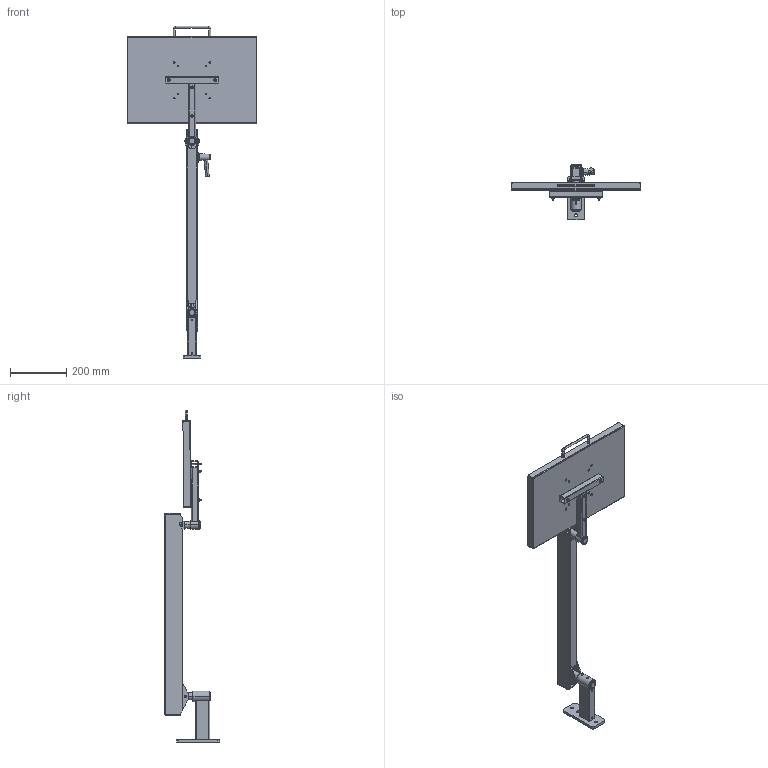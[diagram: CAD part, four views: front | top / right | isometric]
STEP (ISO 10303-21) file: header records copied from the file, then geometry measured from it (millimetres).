
FILE_DESCRIPTION (( 'STEP AP203' ), '1' );
FILE_NAME ('70-0735-00 REV AA, 24in FLEX SYSTEM, TOOL TRAY, WALL MOUNT W EXT - EXTENDED FLAT.STEP', '2025-09-17T22:14:59', ( '' ), ( '' ), 'SwSTEP 2.0', 'SolidWorks 2025', '' );
FILE_SCHEMA (( 'CONFIG_CONTROL_DESIGN' ));
Length unit declared in the file: inch
Products named in the file (56): 11-0601-99 REV AA, CONICAL KNOB, BRAKE ASSEMBLY; 71-0070-RX REV AA, AXLE PIN, SHORT; 002-041-00_002-041-00; 010-011-00, RETAINING RING, EXT, .250 SHAFT_010-011-00; 71-2400-RX REV AA, HOUSING, 24in FLEX; 70-2435-00 REV AA,  FLEX SECTION, 24in, 16-35 LB; 70-0095-00 REV AA, STUD MOUNT, 6in EXT; 010-012-00, RETAINING RING, EXTERNAL, .875in SHAFT; 71-0038-RX REV AA, PIVOT, KNUCKLE, ELECTROLESS NICKEL; 006-059-00; 013-043-00, SPRING, GOLD, 1x8_ISO425203; 007-031-00_007-031-00; 70-0050-00 REV AA, T BAR; 71-3032-RX REV AA, SPRING ROD, 24in FLEX; 71-0060-00; 016-008-00, OILITE PLUS BEARING, 0.876 id x 1.002 od x 1.25 lg; 006-004-00_006-004-00; 11-0650-00 REV AA, BRAKE HANDLE ASSEMBLY; 71-0013-RX REV AA, HOUSING, BEARING, SHORT_MACHINE; 71-0030-RX REV AA, KNUCKLE, LOAD_MACHINE; 71-0217-RX REV AA, PLATE, NARROW WALL MOUNT_Laser; 002-091-00, FHSCS, 10-32x1.5, BO_002-091-00; 71-0071-RX REV AA, AXLE PIN, LONG; 71-0057-WDX REV AA, GUIDE WELDMENT, 24in DOUBLE SPRING GUIDE; 11-0602-RX REV AA, HANDLE, BRAKE ASSEMBLY; 71-0031-RX REV AA, KNUCKLE, MOUNT_MACHINE; 006-008-00, NUT, HEX, 10-32 x .125_006-008-00; 71-0028-RX REV AA, TAB, MOUNT_MACHINE; 71-0029-RX REV AA, TAB, LOAD; 70-0401-00 REV AA, 18x12 SUPPORT TRAY ASSEMBLY; 004-144-00; 71-0037-RX REV AA, PIVOT, THREADED; 71-0052-RX REV AA, HOUSING, T AND STRAIGHT BAR CROSS SECTION_MACHINE; 71-2113-RX REV AA, HOUSING, BEARING, TALL, 1.5OD_MACHINE; 025-067-00, HANDLE, U SHAPED, 8-32; 71-0040-RX REV AA, BRAKE BLOCK, WIDE_MACHINE; 71-0972-99 REV 1, END CAP, FLEX; 11-0401-00 REV AA, 18x12 TOOL TRAY, BLACK; 71-2401-BLKX REV AA, FLEX HOUSING, 24in, BLACK; 011-020-00 REV AA, PIN, KNURLED, 1.0LG x .25OD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
Assembly tree (89 placements, depth 4):
  70-0735-00 REV AA, 24in FLEX SYSTEM, TOOL TRAY, WALL MOUNT W EXT - EXTENDED FLAT
    70-0095-00 REV AA, STUD MOUNT, 6in EXT
      71-0217-RX REV AA, PLATE, NARROW WALL MOUNT_Laser
      71-0091-RX REV AA, HOUSING, WALL MOUNT, 6in EXTENSION
      71-2113-RX REV AA, HOUSING, BEARING, TALL, 1.5OD_MACHINE
      016-007-00, OILITE PLUS BEARING, 0.876 id x 1.002 od x 0.75 lg
      016-008-00, OILITE PLUS BEARING, 0.876 id x 1.002 od x 1.25 lg
      007-036-00, SHSS, 1''4-28, .25L_007-036-00
    70-2435-00 REV AA,  FLEX SECTION, 24in, 16-35 LB
      71-0031-RX REV AA, KNUCKLE, MOUNT_MACHINE
      71-1051-RX REV AA, SPRING BLOCK
      71-3032-RX REV AA, SPRING ROD, 24in FLEX
      71-0030-RX REV AA, KNUCKLE, LOAD_MACHINE
      71-0038-RX REV AA, PIVOT, KNUCKLE, ELECTROLESS NICKEL
      71-0037-RX REV AA, PIVOT, THREADED
      71-0040-RX REV AA, BRAKE BLOCK, WIDE_MACHINE
      71-2033-99 REV AA, BOLT, ADJUSTING, 12.120
      71-2401-BLKX REV AA, FLEX HOUSING, 24in, BLACK
        71-2400-RX REV AA, HOUSING, 24in FLEX
        71-0029-RX REV AA, TAB, LOAD  x2
        71-0028-RX REV AA, TAB, MOUNT_MACHINE  x2
      71-0070-RX REV AA, AXLE PIN, SHORT
      71-0071-RX REV AA, AXLE PIN, LONG
      71-0972-99 REV 1, END CAP, FLEX  x2
      11-0027-RX REV AA, PLASTIC DISC, BRAKE ASSEMBLY_MACHINE
      71-0057-WDX REV AA, GUIDE WELDMENT, 24in DOUBLE SPRING GUIDE
        71-0058-RX REV AA, BAR, GUIDE, 24in DOUBLE SPRING
        71-0059-RX REV AA, BUSHING, GUIDE, 24in DOUBLE SPRING  x2
      71-0060-00  x2
      11-0650-00 REV AA, BRAKE HANDLE ASSEMBLY
        11-0601-99 REV AA, CONICAL KNOB, BRAKE ASSEMBLY
        11-0602-RX REV AA, HANDLE, BRAKE ASSEMBLY
        11-0027-RX REV AA, PLASTIC DISC, BRAKE ASSEMBLY_MACHINE
        005-084-00, BOLT, 1''4-20x2.75
      010-012-00, RETAINING RING, EXTERNAL, .875in SHAFT  x2
      013-043-00, SPRING, GOLD, 1x8_ISO425203  x2
      010-011-00, RETAINING RING, EXT, .250 SHAFT_010-011-00  x4
      007-036-00, SHSS, 1''4-28, .25L_007-036-00
      016-070-00, BEARING, PLASTIC, .5ID x .625 OD x .75  x2
      004-050-00, WASHER, FIBER, .032 THK, .265ID  x8
      011-033-00  x2
      011-020-00 REV AA, PIN, KNURLED, 1.0LG x .25OD  x2
      004-144-00  x3
      006-059-00
      006-004-00_006-004-00  x2
      002-041-00_002-041-00  x2
    70-0401-00 REV AA, 18x12 SUPPORT TRAY ASSEMBLY
      11-0401-00 REV AA, 18x12 TOOL TRAY, BLACK
      70-0050-00 REV AA, T BAR
        71-0047-RX REV AA, HOUSING, T AND STRAIGHT BAR_MACHINE
        71-0013-RX REV AA, HOUSING, BEARING, SHORT_MACHINE
        71-0052-RX REV AA, HOUSING, T AND STRAIGHT BAR CROSS SECTION_MACHINE
        016-008-00, OILITE PLUS BEARING, 0.876 id x 1.002 od x 1.25 lg
        007-031-00_007-031-00
      002-091-00, FHSCS, 10-32x1.5, BO_002-091-00  x4
      006-008-00, NUT, HEX, 10-32 x .125_006-008-00  x4
      025-067-00, HANDLE, U SHAPED, 8-32
      002-100-00, BHSCS, 8-32x.375_002-100-00  x2
      11-0450-00 REV AA, FOAM, YELLOW, 18x12
Bounding box: 461.77 x 195.71 x 1180.39 mm (x, y, z)
Volume: 1854870.1 mm3; surface area: 1301437.1 mm2
Topology: 85 solids, 85 shells, 2168 faces, 5247 edges, 3247 vertices
Faces by surface type: cylinder 945, plane 600, cone 459, torus 89, bspline 65, sphere 10
Entity records: 91803 total; most frequent: CARTESIAN_POINT 54770, ORIENTED_EDGE 6318, DIRECTION 6275, EDGE_CURVE 3159, AXIS2_PLACEMENT_3D 2433, VERTEX_POINT 1967, EDGE_LOOP 1468, LINE 1409
